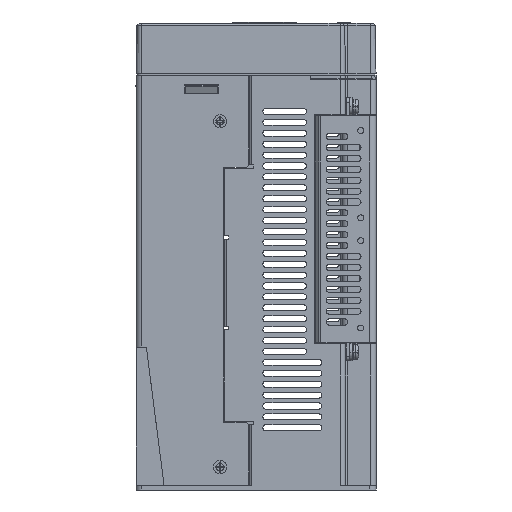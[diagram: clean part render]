
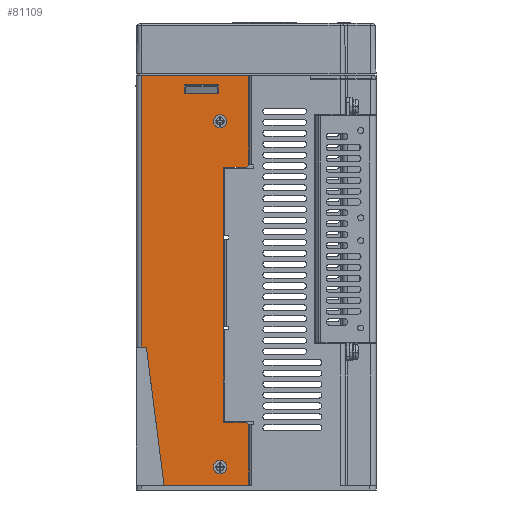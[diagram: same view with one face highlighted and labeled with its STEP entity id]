
A CAD part, left-side view. The second image highlights one B-rep face of the part: STEP entity #81109.
In plain terms, the highlighted planar face has unit normal (-1, 0, 0).
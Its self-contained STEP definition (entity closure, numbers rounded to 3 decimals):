
#72305=DIRECTION('',(0.,-1.,0.));
#72306=VECTOR('',#72305,49.1);
#72307=CARTESIAN_POINT('',(-104.5,52.5,-24.));
#72308=LINE('',#72307,#72306);
#72309=DIRECTION('',(0.,0.,-1.));
#72310=VECTOR('',#72309,41.1);
#72311=CARTESIAN_POINT('',(-104.5,3.4,-24.));
#72312=LINE('',#72311,#72310);
#72313=DIRECTION('',(0.,0.707,-0.707));
#72314=VECTOR('',#72313,1.414);
#72315=CARTESIAN_POINT('',(-104.5,3.4,-65.1));
#72316=LINE('',#72315,#72314);
#72317=DIRECTION('',(0.,-0.707,-0.707));
#72318=VECTOR('',#72317,1.414);
#72319=CARTESIAN_POINT('',(-104.5,4.4,-182.9));
#72320=LINE('',#72319,#72318);
#72321=DIRECTION('',(0.,0.,-1.));
#72322=VECTOR('',#72321,27.9);
#72323=CARTESIAN_POINT('',(-104.5,3.4,-183.9));
#72324=LINE('',#72323,#72322);
#72325=DIRECTION('',(0.,1.,0.));
#72326=VECTOR('',#72325,38.742);
#72327=CARTESIAN_POINT('',(-104.5,3.4,-211.8));
#72328=LINE('',#72327,#72326);
#72329=DIRECTION('',(0.,0.127,0.992));
#72330=VECTOR('',#72329,63.787);
#72331=CARTESIAN_POINT('',(-104.5,42.142,-211.8));
#72332=LINE('',#72331,#72330);
#72333=DIRECTION('',(0.,1.,0.));
#72334=VECTOR('',#72333,2.251);
#72335=CARTESIAN_POINT('',(-104.5,50.249,-148.531));
#72336=LINE('',#72335,#72334);
#72337=DIRECTION('',(0.,0.,-1.));
#72338=VECTOR('',#72337,4.1);
#72339=CARTESIAN_POINT('',(-104.5,32.8,-28.3));
#72340=LINE('',#72339,#72338);
#72341=DIRECTION('',(0.,-1.,0.));
#72342=VECTOR('',#72341,15.6);
#72343=CARTESIAN_POINT('',(-104.5,32.8,-32.4));
#72344=LINE('',#72343,#72342);
#72345=DIRECTION('',(0.,0.,1.));
#72346=VECTOR('',#72345,4.1);
#72347=CARTESIAN_POINT('',(-104.5,17.2,-32.4));
#72348=LINE('',#72347,#72346);
#72349=DIRECTION('',(0.,1.,0.));
#72350=VECTOR('',#72349,15.6);
#72351=CARTESIAN_POINT('',(-104.5,17.2,-28.3));
#72352=LINE('',#72351,#72350);
#72353=CARTESIAN_POINT('',(-104.5,16.5,-45.));
#72354=DIRECTION('',(-1.,0.,0.));
#72355=DIRECTION('',(0.,0.,-1.));
#72356=AXIS2_PLACEMENT_3D('',#72353,#72354,#72355);
#72358=CARTESIAN_POINT('',(-104.5,16.5,-45.));
#72359=DIRECTION('',(-1.,0.,0.));
#72360=DIRECTION('',(0.,0.,1.));
#72361=AXIS2_PLACEMENT_3D('',#72358,#72359,#72360);
#72363=CARTESIAN_POINT('',(-104.5,16.5,-203.5));
#72364=DIRECTION('',(-1.,0.,0.));
#72365=DIRECTION('',(0.,0.,-1.));
#72366=AXIS2_PLACEMENT_3D('',#72363,#72364,#72365);
#72368=CARTESIAN_POINT('',(-104.5,16.5,-203.5));
#72369=DIRECTION('',(-1.,0.,0.));
#72370=DIRECTION('',(0.,0.,1.));
#72371=AXIS2_PLACEMENT_3D('',#72368,#72369,#72370);
#72373=DIRECTION('',(0.,0.,-1.));
#72374=VECTOR('',#72373,123.329);
#72375=CARTESIAN_POINT('',(-104.5,52.5,-24.));
#72376=LINE('',#72375,#72374);
#72377=DIRECTION('',(0.,0.,-1.));
#72378=VECTOR('',#72377,1.201);
#72379=CARTESIAN_POINT('',(-104.5,52.5,-147.329));
#72380=LINE('',#72379,#72378);
#74042=DIRECTION('',(0.,1.,0.));
#74043=VECTOR('',#74042,10.5);
#74044=CARTESIAN_POINT('',(-104.5,4.4,-182.9));
#74045=LINE('',#74044,#74043);
#74046=DIRECTION('',(0.,0.,1.));
#74047=VECTOR('',#74046,116.8);
#74048=CARTESIAN_POINT('',(-104.5,14.9,-182.9));
#74049=LINE('',#74048,#74047);
#74058=DIRECTION('',(0.,-1.,0.));
#74059=VECTOR('',#74058,10.5);
#74060=CARTESIAN_POINT('',(-104.5,14.9,-66.1));
#74061=LINE('',#74060,#74059);
#78913=CARTESIAN_POINT('',(-104.5,52.5,-147.329));
#78914=CARTESIAN_POINT('',(-104.5,52.5,-148.531));
#78915=VERTEX_POINT('',#78913);
#78916=VERTEX_POINT('',#78914);
#78917=CARTESIAN_POINT('',(-104.5,52.5,-24.));
#78918=VERTEX_POINT('',#78917);
#78919=CARTESIAN_POINT('',(-104.5,3.4,-24.));
#78920=VERTEX_POINT('',#78919);
#78921=CARTESIAN_POINT('',(-104.5,3.4,-65.1));
#78922=VERTEX_POINT('',#78921);
#78923=CARTESIAN_POINT('',(-104.5,4.4,-66.1));
#78924=VERTEX_POINT('',#78923);
#78925=CARTESIAN_POINT('',(-104.5,14.9,-66.1));
#78926=VERTEX_POINT('',#78925);
#78927=CARTESIAN_POINT('',(-104.5,14.9,-182.9));
#78928=VERTEX_POINT('',#78927);
#78929=CARTESIAN_POINT('',(-104.5,4.4,-182.9));
#78930=VERTEX_POINT('',#78929);
#78931=CARTESIAN_POINT('',(-104.5,3.4,-183.9));
#78932=VERTEX_POINT('',#78931);
#78933=CARTESIAN_POINT('',(-104.5,3.4,-211.8));
#78934=VERTEX_POINT('',#78933);
#78935=CARTESIAN_POINT('',(-104.5,42.142,-211.8));
#78936=VERTEX_POINT('',#78935);
#78937=CARTESIAN_POINT('',(-104.5,50.249,-148.531));
#78938=VERTEX_POINT('',#78937);
#78939=CARTESIAN_POINT('',(-104.5,32.8,-28.3));
#78940=CARTESIAN_POINT('',(-104.5,32.8,-32.4));
#78941=VERTEX_POINT('',#78939);
#78942=VERTEX_POINT('',#78940);
#78943=CARTESIAN_POINT('',(-104.5,17.2,-32.4));
#78944=VERTEX_POINT('',#78943);
#78945=CARTESIAN_POINT('',(-104.5,17.2,-28.3));
#78946=VERTEX_POINT('',#78945);
#78947=CARTESIAN_POINT('',(-104.5,16.5,-48.));
#78948=CARTESIAN_POINT('',(-104.5,16.5,-42.));
#78949=VERTEX_POINT('',#78947);
#78950=VERTEX_POINT('',#78948);
#78951=CARTESIAN_POINT('',(-104.5,16.5,-206.5));
#78952=CARTESIAN_POINT('',(-104.5,16.5,-200.5));
#78953=VERTEX_POINT('',#78951);
#78954=VERTEX_POINT('',#78952);
#81054=CARTESIAN_POINT('',(-104.5,52.5,-205.));
#81055=DIRECTION('',(-1.,0.,0.));
#81056=DIRECTION('',(0.,0.,1.));
#81057=AXIS2_PLACEMENT_3D('',#81054,#81055,#81056);
#81058=PLANE('',#81057);
#81060=ORIENTED_EDGE('',*,*,#81059,.F.);
#81062=ORIENTED_EDGE('',*,*,#81061,.F.);
#81064=ORIENTED_EDGE('',*,*,#81063,.T.);
#81066=ORIENTED_EDGE('',*,*,#81065,.T.);
#81068=ORIENTED_EDGE('',*,*,#81067,.T.);
#81070=ORIENTED_EDGE('',*,*,#81069,.F.);
#81072=ORIENTED_EDGE('',*,*,#81071,.F.);
#81074=ORIENTED_EDGE('',*,*,#81073,.F.);
#81076=ORIENTED_EDGE('',*,*,#81075,.T.);
#81078=ORIENTED_EDGE('',*,*,#81077,.T.);
#81080=ORIENTED_EDGE('',*,*,#81079,.T.);
#81082=ORIENTED_EDGE('',*,*,#81081,.T.);
#81084=ORIENTED_EDGE('',*,*,#81083,.T.);
#81085=EDGE_LOOP('',(#81060,#81062,#81064,#81066,#81068,#81070,#81072,#81074,
#81076,#81078,#81080,#81082,#81084));
#81086=FACE_OUTER_BOUND('',#81085,.F.);
#81088=ORIENTED_EDGE('',*,*,#81087,.T.);
#81090=ORIENTED_EDGE('',*,*,#81089,.T.);
#81092=ORIENTED_EDGE('',*,*,#81091,.T.);
#81094=ORIENTED_EDGE('',*,*,#81093,.T.);
#81095=EDGE_LOOP('',(#81088,#81090,#81092,#81094));
#81096=FACE_BOUND('',#81095,.F.);
#81098=ORIENTED_EDGE('',*,*,#81097,.T.);
#81100=ORIENTED_EDGE('',*,*,#81099,.T.);
#81101=EDGE_LOOP('',(#81098,#81100));
#81102=FACE_BOUND('',#81101,.F.);
#81104=ORIENTED_EDGE('',*,*,#81103,.T.);
#81106=ORIENTED_EDGE('',*,*,#81105,.T.);
#81107=EDGE_LOOP('',(#81104,#81106));
#81108=FACE_BOUND('',#81107,.F.);
#81109=ADVANCED_FACE('',(#81086,#81096,#81102,#81108),#81058,.T.);
#72357=CIRCLE('',#72356,3.);
#72362=CIRCLE('',#72361,3.);
#72367=CIRCLE('',#72366,3.);
#72372=CIRCLE('',#72371,3.);
#81059=EDGE_CURVE('',#78915,#78916,#72380,.T.);
#81061=EDGE_CURVE('',#78918,#78915,#72376,.T.);
#81063=EDGE_CURVE('',#78918,#78920,#72308,.T.);
#81065=EDGE_CURVE('',#78920,#78922,#72312,.T.);
#81067=EDGE_CURVE('',#78922,#78924,#72316,.T.);
#81069=EDGE_CURVE('',#78926,#78924,#74061,.T.);
#81071=EDGE_CURVE('',#78928,#78926,#74049,.T.);
#81073=EDGE_CURVE('',#78930,#78928,#74045,.T.);
#81075=EDGE_CURVE('',#78930,#78932,#72320,.T.);
#81077=EDGE_CURVE('',#78932,#78934,#72324,.T.);
#81079=EDGE_CURVE('',#78934,#78936,#72328,.T.);
#81081=EDGE_CURVE('',#78936,#78938,#72332,.T.);
#81083=EDGE_CURVE('',#78938,#78916,#72336,.T.);
#81087=EDGE_CURVE('',#78941,#78942,#72340,.T.);
#81089=EDGE_CURVE('',#78942,#78944,#72344,.T.);
#81091=EDGE_CURVE('',#78944,#78946,#72348,.T.);
#81093=EDGE_CURVE('',#78946,#78941,#72352,.T.);
#81097=EDGE_CURVE('',#78949,#78950,#72357,.T.);
#81099=EDGE_CURVE('',#78950,#78949,#72362,.T.);
#81103=EDGE_CURVE('',#78953,#78954,#72367,.T.);
#81105=EDGE_CURVE('',#78954,#78953,#72372,.T.);
